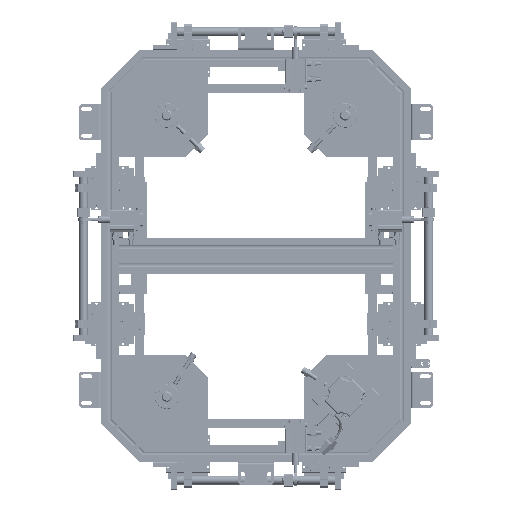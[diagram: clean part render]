
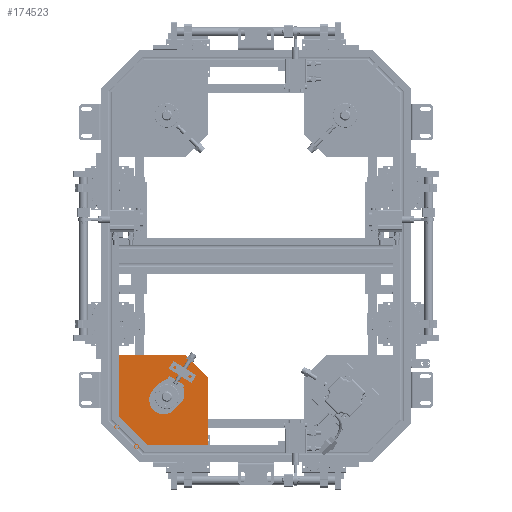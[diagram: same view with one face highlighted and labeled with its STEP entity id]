
A CAD part, front view. The second image highlights one B-rep face of the part: STEP entity #174523.
In plain terms, the highlighted planar face has unit normal (0, -1, 0) as drawn and (0, 0, -1) by its records, which use the part's own axes.
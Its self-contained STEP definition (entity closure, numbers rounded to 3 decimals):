
#586 = CARTESIAN_POINT ( 'NONE',  ( -76.594, -117.444, 0. ) ) ;
#3487 = DIRECTION ( 'NONE',  ( 1., 0., 0. ) ) ;
#3508 = VECTOR ( 'NONE', #77700, 1000. ) ;
#5884 = FACE_BOUND ( 'NONE', #182498, .T. ) ;
#8345 = EDGE_LOOP ( 'NONE', ( #140552, #11969 ) ) ;
#9464 = AXIS2_PLACEMENT_3D ( 'NONE', #50444, #21134, #169452 ) ;
#10179 = DIRECTION ( 'NONE',  ( 1., 0., 0. ) ) ;
#11911 = EDGE_CURVE ( 'NONE', #31740, #173036, #76955, .T. ) ;
#11969 = ORIENTED_EDGE ( 'NONE', *, *, #126485, .T. ) ;
#14761 = DIRECTION ( 'NONE',  ( 0.707, 0.707, 0. ) ) ;
#14932 = CARTESIAN_POINT ( 'NONE',  ( -62.452, -131.586, 0. ) ) ;
#15029 = ORIENTED_EDGE ( 'NONE', *, *, #175099, .T. ) ;
#16727 = CARTESIAN_POINT ( 'NONE',  ( -153.599, 0., 0. ) ) ;
#19686 = ORIENTED_EDGE ( 'NONE', *, *, #135911, .F. ) ;
#20939 = EDGE_CURVE ( 'NONE', #69982, #84797, #134863, .T. ) ;
#21072 = EDGE_CURVE ( 'NONE', #100167, #69258, #139583, .T. ) ;
#21134 = DIRECTION ( 'NONE',  ( 0., 0., 1. ) ) ;
#27707 = EDGE_LOOP ( 'NONE', ( #66526, #132180, #19686, #189235, #161385, #65592 ) ) ;
#28593 = CARTESIAN_POINT ( 'NONE',  ( -160.62, -35.306, 0. ) ) ;
#31740 = VERTEX_POINT ( 'NONE', #69341 ) ;
#33292 = DIRECTION ( 'NONE',  ( 0., -1., 0. ) ) ;
#37287 = AXIS2_PLACEMENT_3D ( 'NONE', #59506, #177279, #119334 ) ;
#39427 = CARTESIAN_POINT ( 'NONE',  ( -200.194, -79.38, 0. ) ) ;
#44706 = VECTOR ( 'NONE', #178411, 1000. ) ;
#45312 = DIRECTION ( 'NONE',  ( 0., 0., 1. ) ) ;
#45943 = DIRECTION ( 'NONE',  ( 1., 0., 0. ) ) ;
#50444 = CARTESIAN_POINT ( 'NONE',  ( -160.62, -35.306, 0. ) ) ;
#51147 = CIRCLE ( 'NONE', #73507, 4.5 ) ;
#57396 = VECTOR ( 'NONE', #159993, 1000. ) ;
#58013 = CARTESIAN_POINT ( 'NONE',  ( -240., -240., 0. ) ) ;
#59506 = CARTESIAN_POINT ( 'NONE',  ( 0., 0., 0. ) ) ;
#61883 = EDGE_CURVE ( 'NONE', #73267, #147644, #173498, .T. ) ;
#62109 = LINE ( 'NONE', #130125, #57396 ) ;
#65592 = ORIENTED_EDGE ( 'NONE', *, *, #21072, .F. ) ;
#65603 = LINE ( 'NONE', #150381, #44706 ) ;
#66279 = ORIENTED_EDGE ( 'NONE', *, *, #11911, .T. ) ;
#66526 = ORIENTED_EDGE ( 'NONE', *, *, #129517, .F. ) ;
#66591 = VECTOR ( 'NONE', #14761, 1000. ) ;
#69079 = CARTESIAN_POINT ( 'NONE',  ( -122.556, -163.406, 0. ) ) ;
#69258 = VERTEX_POINT ( 'NONE', #16727 ) ;
#69341 = CARTESIAN_POINT ( 'NONE',  ( -165.12, -35.306, 0. ) ) ;
#69982 = VERTEX_POINT ( 'NONE', #191980 ) ;
#72468 = VERTEX_POINT ( 'NONE', #110649 ) ;
#73267 = VERTEX_POINT ( 'NONE', #140410 ) ;
#73507 = AXIS2_PLACEMENT_3D ( 'NONE', #28593, #175671, #103443 ) ;
#74957 = LINE ( 'NONE', #58013, #84280 ) ;
#76955 = CIRCLE ( 'NONE', #9464, 4.5 ) ;
#77700 = DIRECTION ( 'NONE',  ( -0.707, 0.707, 0. ) ) ;
#82094 = DIRECTION ( 'NONE',  ( 1., 0., 0. ) ) ;
#84280 = VECTOR ( 'NONE', #129544, 1000. ) ;
#84797 = VERTEX_POINT ( 'NONE', #14932 ) ;
#85139 = DIRECTION ( 'NONE',  ( 0., 0., 1. ) ) ;
#87585 = AXIS2_PLACEMENT_3D ( 'NONE', #185492, #169862, #82094 ) ;
#89592 = CARTESIAN_POINT ( 'NONE',  ( -204.694, -79.38, 0. ) ) ;
#89621 = AXIS2_PLACEMENT_3D ( 'NONE', #94645, #124443, #3487 ) ;
#89996 = AXIS2_PLACEMENT_3D ( 'NONE', #99420, #101331, #10179 ) ;
#92443 = CARTESIAN_POINT ( 'NONE',  ( -122.556, -163.406, 0. ) ) ;
#93849 = CARTESIAN_POINT ( 'NONE',  ( -240., -86.401, 0. ) ) ;
#94178 = EDGE_LOOP ( 'NONE', ( #144261, #143018, #111304, #147196, #110138 ) ) ;
#94645 = CARTESIAN_POINT ( 'NONE',  ( -85.433, -154.567, 0. ) ) ;
#94664 = LINE ( 'NONE', #193005, #66591 ) ;
#94799 = VERTEX_POINT ( 'NONE', #92443 ) ;
#97211 = CARTESIAN_POINT ( 'NONE',  ( -108.414, -177.548, 0. ) ) ;
#99420 = CARTESIAN_POINT ( 'NONE',  ( -85.433, -154.567, 0. ) ) ;
#100167 = VERTEX_POINT ( 'NONE', #116799 ) ;
#101331 = DIRECTION ( 'NONE',  ( 0., 0., 1. ) ) ;
#101754 = AXIS2_PLACEMENT_3D ( 'NONE', #173587, #85139, #189148 ) ;
#103443 = DIRECTION ( 'NONE',  ( 1., 0., 0. ) ) ;
#103659 = CIRCLE ( 'NONE', #89621, 32.5 ) ;
#104223 = VERTEX_POINT ( 'NONE', #178964 ) ;
#106451 = EDGE_CURVE ( 'NONE', #184339, #94799, #166332, .T. ) ;
#106990 = CARTESIAN_POINT ( 'NONE',  ( -76.594, -117.444, 0. ) ) ;
#109918 = VERTEX_POINT ( 'NONE', #184626 ) ;
#110138 = ORIENTED_EDGE ( 'NONE', *, *, #20939, .T. ) ;
#110649 = CARTESIAN_POINT ( 'NONE',  ( 0., -190.503, 0. ) ) ;
#110752 = DIRECTION ( 'NONE',  ( 0.707, -0.707, 0. ) ) ;
#111304 = ORIENTED_EDGE ( 'NONE', *, *, #177352, .T. ) ;
#111646 = VECTOR ( 'NONE', #177388, 1000. ) ;
#115237 = VERTEX_POINT ( 'NONE', #39427 ) ;
#116799 = CARTESIAN_POINT ( 'NONE',  ( 0., 0., 0. ) ) ;
#117776 = LINE ( 'NONE', #69079, #169112 ) ;
#118046 = PLANE ( 'NONE',  #37287 ) ;
#118821 = CARTESIAN_POINT ( 'NONE',  ( 0., 0., 0. ) ) ;
#119334 = DIRECTION ( 'NONE',  ( 1., 0., 0. ) ) ;
#122157 = EDGE_CURVE ( 'NONE', #135752, #69982, #103659, .T. ) ;
#122203 = FACE_BOUND ( 'NONE', #8345, .T. ) ;
#124443 = DIRECTION ( 'NONE',  ( 0., 0., 1. ) ) ;
#126485 = EDGE_CURVE ( 'NONE', #109918, #115237, #162768, .T. ) ;
#129517 = EDGE_CURVE ( 'NONE', #72468, #100167, #65603, .T. ) ;
#129544 = DIRECTION ( 'NONE',  ( 1., 0., 0. ) ) ;
#130125 = CARTESIAN_POINT ( 'NONE',  ( -153.599, 0., 0. ) ) ;
#132180 = ORIENTED_EDGE ( 'NONE', *, *, #172334, .F. ) ;
#132246 = EDGE_CURVE ( 'NONE', #69258, #73267, #62109, .T. ) ;
#132514 = CIRCLE ( 'NONE', #191077, 4.5 ) ;
#134863 = CIRCLE ( 'NONE', #89996, 32.5 ) ;
#135752 = VERTEX_POINT ( 'NONE', #97211 ) ;
#135911 = EDGE_CURVE ( 'NONE', #147644, #104223, #74957, .T. ) ;
#139583 = LINE ( 'NONE', #118821, #111646 ) ;
#140410 = CARTESIAN_POINT ( 'NONE',  ( -240., -86.401, 0. ) ) ;
#140552 = ORIENTED_EDGE ( 'NONE', *, *, #187518, .T. ) ;
#140670 = CARTESIAN_POINT ( 'NONE',  ( -240., -240., 0. ) ) ;
#143018 = ORIENTED_EDGE ( 'NONE', *, *, #106451, .T. ) ;
#143208 = VECTOR ( 'NONE', #33292, 1000. ) ;
#144261 = ORIENTED_EDGE ( 'NONE', *, *, #148002, .T. ) ;
#147196 = ORIENTED_EDGE ( 'NONE', *, *, #122157, .T. ) ;
#147644 = VERTEX_POINT ( 'NONE', #140670 ) ;
#148002 = EDGE_CURVE ( 'NONE', #84797, #184339, #189803, .T. ) ;
#149802 = FACE_BOUND ( 'NONE', #94178, .T. ) ;
#150381 = CARTESIAN_POINT ( 'NONE',  ( 0., -190.503, 0. ) ) ;
#159993 = DIRECTION ( 'NONE',  ( -0.707, -0.707, 0. ) ) ;
#161385 = ORIENTED_EDGE ( 'NONE', *, *, #132246, .F. ) ;
#162768 = CIRCLE ( 'NONE', #87585, 4.5 ) ;
#166332 = CIRCLE ( 'NONE', #101754, 32.5 ) ;
#169112 = VECTOR ( 'NONE', #110752, 1000. ) ;
#169452 = DIRECTION ( 'NONE',  ( 1., 0., 0. ) ) ;
#169862 = DIRECTION ( 'NONE',  ( 0., 0., 1. ) ) ;
#172334 = EDGE_CURVE ( 'NONE', #104223, #72468, #94664, .T. ) ;
#173036 = VERTEX_POINT ( 'NONE', #181162 ) ;
#173498 = LINE ( 'NONE', #93849, #143208 ) ;
#173587 = CARTESIAN_POINT ( 'NONE',  ( -99.575, -140.425, 0. ) ) ;
#174523 = ADVANCED_FACE ( 'NONE', ( #5884, #122203, #149802, #180098 ), #118046, .F. ) ;
#175099 = EDGE_CURVE ( 'NONE', #173036, #31740, #51147, .T. ) ;
#175671 = DIRECTION ( 'NONE',  ( 0., 0., 1. ) ) ;
#177279 = DIRECTION ( 'NONE',  ( 0., 0., 1. ) ) ;
#177352 = EDGE_CURVE ( 'NONE', #94799, #135752, #117776, .T. ) ;
#177388 = DIRECTION ( 'NONE',  ( -1., 0., 0. ) ) ;
#178411 = DIRECTION ( 'NONE',  ( 0., 1., 0. ) ) ;
#178964 = CARTESIAN_POINT ( 'NONE',  ( -49.497, -240., 0. ) ) ;
#180098 = FACE_OUTER_BOUND ( 'NONE', #27707, .T. ) ;
#181162 = CARTESIAN_POINT ( 'NONE',  ( -156.12, -35.306, 0. ) ) ;
#182498 = EDGE_LOOP ( 'NONE', ( #15029, #66279 ) ) ;
#184339 = VERTEX_POINT ( 'NONE', #586 ) ;
#184626 = CARTESIAN_POINT ( 'NONE',  ( -209.194, -79.38, 0. ) ) ;
#185492 = CARTESIAN_POINT ( 'NONE',  ( -204.694, -79.38, 0. ) ) ;
#187518 = EDGE_CURVE ( 'NONE', #115237, #109918, #132514, .T. ) ;
#189148 = DIRECTION ( 'NONE',  ( 1., 0., 0. ) ) ;
#189235 = ORIENTED_EDGE ( 'NONE', *, *, #61883, .F. ) ;
#189803 = LINE ( 'NONE', #106990, #3508 ) ;
#191077 = AXIS2_PLACEMENT_3D ( 'NONE', #89592, #45312, #45943 ) ;
#191980 = CARTESIAN_POINT ( 'NONE',  ( -52.933, -154.567, 0. ) ) ;
#193005 = CARTESIAN_POINT ( 'NONE',  ( -49.497, -240., 0. ) ) ;
